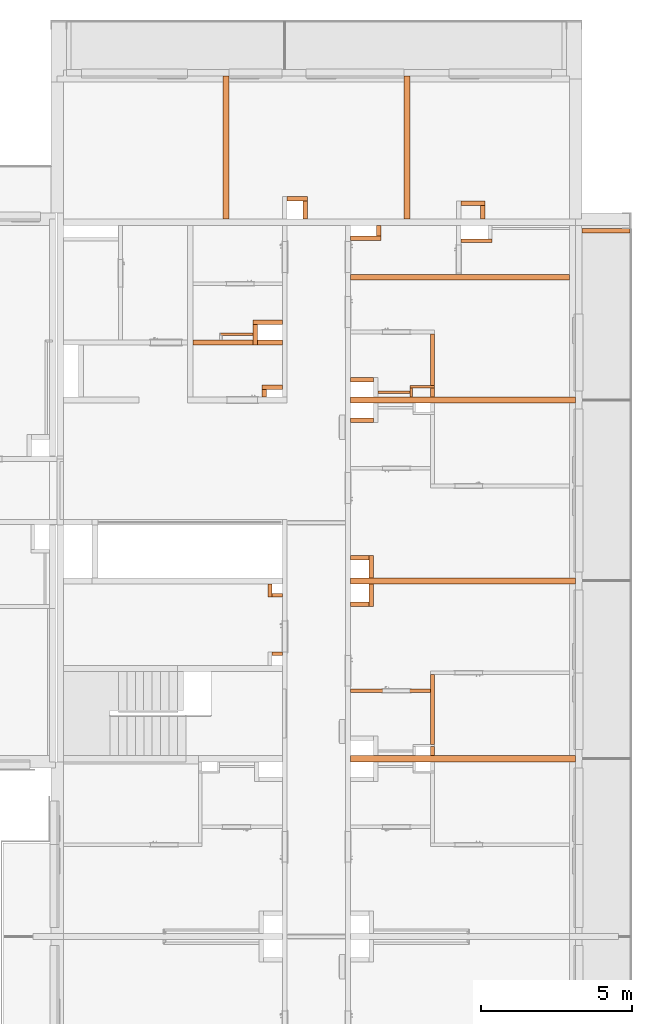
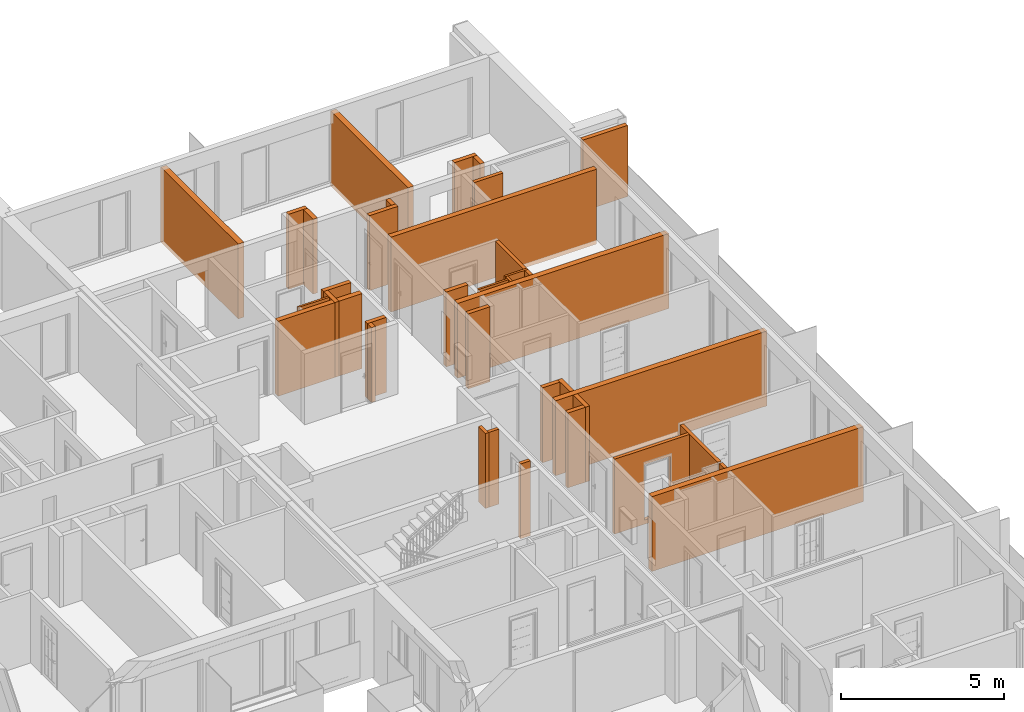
# One storey, part 66 of 67: 35 proxies, 1 opening.
"""IFC2X3 building model written with IfcOpenShell, lengths in millimetres."""

from ifc_helpers import new_model, entity, si_unit, converted_unit, derived_unit, money_unit, direction, frame, origin_with_axes, origin_2d_with_axis, place, context, subcontext, project, spatial, rectangle, extrude, faceted_brep, material, material_list, type_object, element, save


model = new_model("IFC2X3")

# Units and contexts
model_context = context("Model", 3, precision=0.01, world=origin_with_axes(), true_north=direction((0.34421633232, 0.938890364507)))
body_context = subcontext(model_context, "Body", "Model", "MODEL_VIEW")
ifc_project = project(units=[si_unit("LENGTHUNIT", "METRE", prefix="MILLI"), si_unit("AREAUNIT", "SQUARE_METRE"), si_unit("VOLUMEUNIT", "CUBIC_METRE"), converted_unit("PLANEANGLEUNIT", "DEGREE", entity("IfcPlaneAngleMeasure", 0.0174532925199), si_unit("PLANEANGLEUNIT", "RADIAN"), dimensions=[0, 0, 0, 0, 0, 0, 0]), si_unit("SOLIDANGLEUNIT", "STERADIAN"), money_unit("USD"), converted_unit("TIMEUNIT", "Year", entity("IfcTimeMeasure", 31556926.0), si_unit("TIMEUNIT", "SECOND"), dimensions=[0, 0, 1, 0, 0, 0, 0]), si_unit("MASSUNIT", "GRAM", prefix="KILO"), si_unit("THERMODYNAMICTEMPERATUREUNIT", "DEGREE_CELSIUS"), si_unit("LUMINOUSINTENSITYUNIT", "LUMEN"), si_unit("ENERGYUNIT", "JOULE", prefix="MEGA"), derived_unit("THERMALCONDUCTANCEUNIT", [(si_unit("POWERUNIT", "WATT"), 1), (si_unit("LENGTHUNIT", "METRE"), -1), (si_unit("THERMODYNAMICTEMPERATUREUNIT", "KELVIN"), -1)]), derived_unit("SPECIFICHEATCAPACITYUNIT", [(si_unit("ENERGYUNIT", "JOULE"), 1), (si_unit("MASSUNIT", "GRAM", prefix="KILO"), -1), (si_unit("THERMODYNAMICTEMPERATUREUNIT", "KELVIN"), -1)]), derived_unit("MASSDENSITYUNIT", [(si_unit("MASSUNIT", "GRAM", prefix="KILO"), 1), (si_unit("VOLUMEUNIT", "CUBIC_METRE"), -1)])], contexts=[model_context])

# Site, building, storey
site_placement = place(None, origin_with_axes())
site = spatial("IfcSite", under=ifc_project, at=site_placement, Name="USTRONIE MORSKIE", CompositionType="ELEMENT")
building_placement = place(site_placement, origin_with_axes())
building = spatial("IfcBuilding", under=site, at=building_placement, Name="Budynek", CompositionType="ELEMENT")
storey_placement = place(building_placement, frame((0.0, 0.0, 4000.0), z_axis=(0.0, 0.0, 1.0), x_axis=(1.0, 0.0, 0.0)))
storey = spatial("IfcBuildingStorey", under=building, at=storey_placement, Name="PIĘTRO 1", CompositionType="ELEMENT", Elevation=4000.0)

# Proxies
ifc_material_1 = material(Name="Bloczki silikatowe")
building_element_proxy_type_1 = type_object("IfcBuildingElementProxyType", Name="Bloczki silikatowe 120", PredefinedType="NOTDEFINED")
proxy_1_placement = place(storey_placement, frame((415587.920919, 732381.198997, -160.0), z_axis=(0.0, 0.0, 1.0), x_axis=(1.0, 0.0, 0.0)))
element("IfcBuildingElementProxy", 1, at=proxy_1_placement, inside=storey, type_object=building_element_proxy_type_1, material=ifc_material_1, Name="SW-04", context=body_context, shape_type="Brep", body=[
    faceted_brep([(350.0, -120.0, 2800.0), (350.0, 0.0, 2800.0), (0.0, 0.0, 2800.0), (0.0, -120.0, 2800.0), (350.0, -120.0, 0.0), (350.0, 0.0, 0.0), (0.0, 0.0, 0.0), (0.0, -120.0, 0.0)], [[[0, 1, 2, 3]], [[1, 0, 4, 5]], [[1, 5, 6, 2]], [[7, 3, 2, 6]], [[4, 0, 3, 7]], [[5, 4, 7, 6]]]),
])
proxy_2_placement = place(storey_placement, frame((420917.920919, 726901.199036, -160.0), z_axis=(0.0, 0.0, 1.0), x_axis=(0.0, 1.0, 0.0)))
element("IfcBuildingElementProxy", 2, at=proxy_2_placement, inside=storey, type_object=building_element_proxy_type_1, material=ifc_material_1, Name="SW-04", context=body_context, shape_type="Brep", body=[
    faceted_brep([(400.01915523, -60.0, 2800.0), (400.01915523, 60.0, 2800.0), (99.9999999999, 60.0, 2800.0), (99.9999999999, -60.0, 2800.0), (400.01915523, -60.0, 0.0), (400.01915523, 60.0, 0.0), (99.9999999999, 60.0, 0.0), (99.9999999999, -60.0, 0.0)], [[[0, 1, 2, 3]], [[1, 0, 4, 5]], [[1, 5, 6, 2]], [[7, 3, 2, 6]], [[4, 0, 3, 7]], [[5, 4, 7, 6]]]),
    faceted_brep([(2790.01935038, -60.0, 2800.0), (2790.01935038, 60.0, 2800.0), (480.01915523, 60.0, 2800.0), (480.01915523, -60.0, 2800.0), (2790.01935038, -60.0, 0.0), (2790.01935038, 60.0, 0.0), (480.01915523, 60.0, 0.0), (480.01915523, -60.0, 0.0)], [[[0, 1, 2, 3]], [[1, 0, 4, 5]], [[1, 5, 6, 2]], [[7, 3, 2, 6]], [[4, 0, 3, 7]], [[5, 4, 7, 6]]]),
])
proxy_3_placement = place(storey_placement, frame((420917.920919, 738801.202745, -180.0), z_axis=(0.0, 0.0, 1.0), x_axis=(0.0, 1.0, 0.0)))
element("IfcBuildingElementProxy", 3, at=proxy_3_placement, inside=storey, type_object=building_element_proxy_type_1, material=ifc_material_1, Name="SW-04", context=body_context, shape_type="Brep", body=[
    faceted_brep([(99.9959005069, -60.0, 2820.0), (99.9959005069, -60.0, 20.0), (399.996773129, -60.0, 20.0), (399.996773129, -60.0, 2820.0), (99.9959005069, 60.0, 2820.0), (99.9959005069, 60.0, 20.0), (399.996773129, 60.0, 20.0), (399.996773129, 60.0, 2820.0)], [[[0, 1, 2, 3]], [[4, 5, 1, 0]], [[5, 6, 2, 1]], [[3, 2, 6, 7]], [[4, 0, 3, 7]], [[7, 6, 5, 4]]]),
    faceted_brep([(479.996773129, -60.0, 2820.0), (479.996773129, -60.0, 20.0), (2200.00519406, -60.0, 20.0), (2200.00519406, -60.0, 2820.0), (479.996773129, 60.0, 2820.0), (479.996773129, 60.0, 20.0), (2200.00519406, 60.0, 20.0), (2200.00519406, 60.0, 2820.0)], [[[0, 1, 2, 3]], [[4, 5, 1, 0]], [[5, 6, 2, 1]], [[3, 2, 6, 7]], [[3, 7, 4, 0]], [[7, 6, 5, 4]]]),
])

# Proxy, opening
proxy_4_placement = place(storey_placement, frame((420917.920919, 729161.218596, -160.0), z_axis=(0.0, 0.0, 1.0), x_axis=(-1.0, 0.0, 0.0)))
proxy_4 = element("IfcBuildingElementProxy", 4, at=proxy_4_placement, inside=storey, type_object=building_element_proxy_type_1, material=ifc_material_1, Name="SW-04", context=body_context, shape_type="Brep", body=[
    faceted_brep([(2720.0, -59.9999999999, 2800.0), (2720.0, 59.9999999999, 2800.0), (60.0, 59.9999999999, 2800.0), (60.0, -59.9999999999, 2800.0), (2720.0, -59.9999999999, 0.0), (2720.0, 59.9999999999, 0.0), (60.0, 59.9999999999, 0.0), (60.0, -59.9999999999, 0.0)], [[[0, 1, 2, 3]], [[1, 0, 4, 5]], [[1, 5, 6, 2]], [[7, 3, 2, 6]], [[4, 0, 3, 7]], [[5, 4, 7, 6]]]),
])
opening_placement = place(proxy_4_placement, frame((1200.0, 0.0, 160.0), z_axis=(0.0, 0.0, 1.0), x_axis=(1.0, 0.0, 0.0)))
element("IfcOpeningElement", 5, at=opening_placement, cuts=proxy_4, Name="Dw.4", context=body_context, shape_type="SweptSolid", body=[
    extrude(rectangle(XDim=920.0, YDim=2070.0, at=origin_2d_with_axis()), frame((0.0, 120.0, 1035.0), z_axis=(0.0, -1.0, 0.0), x_axis=(-1.0, 0.0, 0.0)), (0.0, 0.0, 1.0), 360.0),
    extrude(rectangle(XDim=994.0, YDim=2177.0, at=origin_2d_with_axis()), frame((0.0, 60.0000000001, 1088.5), z_axis=(0.0, -1.0, 0.0), x_axis=(-1.0, 0.0, 0.0)), (0.0, 0.0, -1.0), 120.0),
    extrude(rectangle(XDim=994.0, YDim=2177.0, at=origin_2d_with_axis()), frame((0.0, -59.9999999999, 1088.5), z_axis=(0.0, 1.0, 0.0), x_axis=(-1.0, 0.0, 0.0)), (0.0, 0.0, -1.0), 120.0),
])

# Proxies
proxy_5_placement = place(storey_placement, frame((421792.920919, 744091.199036, -160.0), z_axis=(0.0, 0.0, 1.0), x_axis=(1.0, 0.0, 0.0)))
element("IfcBuildingElementProxy", 6, at=proxy_5_placement, inside=storey, type_object=building_element_proxy_type_1, material=ifc_material_1, Name="SW-04", context=body_context, shape_type="Brep", body=[
    faceted_brep([(1095.0, -59.9999999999, 2800.0), (1095.0, 59.9999999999, 2800.0), (75.0, 59.9999999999, 2800.0), (75.0, -59.9999999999, 2800.0), (1095.0, -59.9999999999, 0.0), (1095.0, 59.9999999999, 0.0), (75.0, 59.9999999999, 0.0), (75.0, -59.9999999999, 0.0)], [[[0, 1, 2, 3]], [[1, 0, 4, 5]], [[1, 5, 6, 2]], [[7, 3, 2, 6]], [[4, 0, 3, 7]], [[5, 4, 7, 6]]]),
])
proxy_6_placement = place(storey_placement, frame((415587.920919, 732801.199169, -160.0), z_axis=(0.0, 0.0, 1.0), x_axis=(0.0, -1.0, 0.0)))
element("IfcBuildingElementProxy", 7, at=proxy_6_placement, inside=storey, type_object=building_element_proxy_type_1, material=ifc_material_1, Name="SW-04", context=body_context, shape_type="Brep", body=[
    faceted_brep([(540.000171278, -120.0, 2800.0), (540.000171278, 0.0, 2800.0), (100.000132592, 0.0, 2800.0), (100.000132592, -120.0, 2800.0), (540.000171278, -120.0, 0.0), (540.000171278, 0.0, 0.0), (100.000132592, 0.0, 0.0), (100.000132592, -120.0, 0.0)], [[[0, 1, 2, 3]], [[1, 0, 4, 5]], [[1, 5, 6, 2]], [[7, 3, 2, 6]], [[4, 0, 3, 7]], [[5, 4, 7, 6]]]),
])
proxy_7_placement = place(storey_placement, frame((415587.920919, 730321.199036, -160.0), z_axis=(0.0, 0.0, 1.0), x_axis=(1.0, 0.0, 0.0)))
element("IfcBuildingElementProxy", 8, at=proxy_7_placement, inside=storey, type_object=building_element_proxy_type_1, material=ifc_material_1, Name="SW-04", context=body_context, shape_type="Brep", body=[
    faceted_brep([(350.0, 120.0, 0.0), (350.0, 0.0, 0.0), (0.0, 0.0, 0.0), (0.0, 120.0, 0.0), (350.0, 120.0, 2800.0), (350.0, 0.0, 2800.0), (0.0, 0.0, 2800.0), (0.0, 120.0, 2800.0)], [[[0, 1, 2, 3]], [[1, 0, 4, 5]], [[1, 5, 6, 2]], [[7, 3, 2, 6]], [[4, 0, 3, 7]], [[5, 4, 7, 6]]]),
])
building_element_proxy_type_2 = type_object("IfcBuildingElementProxyType", Name="Bloczki silikatowe 180", PredefinedType="NOTDEFINED")
proxy_8_placement = place(storey_placement, frame((418117.920919, 742871.199128, -160.0), z_axis=(0.0, 0.0, 1.0), x_axis=(1.0, 0.0, 0.0)))
element("IfcBuildingElementProxy", 9, at=proxy_8_placement, inside=storey, type_object=building_element_proxy_type_2, material=ifc_material_1, Name="SW-02", context=body_context, shape_type="Brep", body=[
    faceted_brep([(7350.0, -90.0, 2800.0), (7350.0, 90.0, 2800.0), (80.0, 90.0, 2800.0), (80.0, -90.0, 2800.0), (7350.0, -90.0, 0.0), (7350.0, 90.0, 0.0), (80.0, 90.0, 0.0), (80.0, -90.0, 0.0)], [[[0, 1, 2, 3]], [[1, 0, 4, 5]], [[1, 5, 6, 2]], [[7, 3, 2, 6]], [[4, 0, 3, 7]], [[5, 4, 7, 6]]]),
])
proxy_9_placement = place(storey_placement, frame((412877.920964, 740711.179476, -160.0), z_axis=(0.0, 0.0, 1.0), x_axis=(1.0, 0.0, 0.0)))
element("IfcBuildingElementProxy", 10, at=proxy_9_placement, inside=storey, type_object=building_element_proxy_type_2, material=ifc_material_1, Name="SW-02", context=body_context, shape_type="Brep", body=[
    faceted_brep([(2089.99816017, 90.0, 0.0), (2089.99816017, -90.0, 0.0), (89.9999991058, -90.0, 0.0), (89.9999991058, 90.0, 0.0), (2089.99816017, 90.0, 2800.0), (2089.99816017, -90.0, 2800.0), (89.9999991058, -90.0, 2800.0), (89.9999991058, 90.0, 2800.0)], [[[0, 1, 2, 3]], [[1, 0, 4, 5]], [[1, 5, 6, 2]], [[7, 3, 2, 6]], [[4, 0, 3, 7]], [[5, 4, 7, 6]]]),
    faceted_brep([(3059.99995392, 90.0, 0.0), (3059.99995392, -90.0, 0.0), (2239.99816017, -90.0, 0.0), (2239.99816017, 90.0, 0.0), (3059.99995392, 90.0, 2800.0), (3059.99995392, -90.0, 2800.0), (2239.99816017, -90.0, 2800.0), (2239.99816017, 90.0, 2800.0)], [[[0, 1, 2, 3]], [[1, 0, 4, 5]], [[1, 5, 6, 2]], [[7, 3, 2, 6]], [[4, 0, 3, 7]], [[5, 4, 7, 6]]]),
])
ifc_material_2 = material(Name="-Pustka powietrzna")
ifc_material_3 = material(Name="Płyta GK")
ifc_material_list = material_list([ifc_material_2, ifc_material_3, ifc_material_3])
building_element_proxy_type_3 = type_object("IfcBuildingElementProxyType", Name="330-SD GK 2-warstwy 75", PredefinedType="NOTDEFINED")
proxy_10_placement = place(storey_placement, frame((420217.920919, 739071.20032, -180.0), z_axis=(0.0, 0.0, 1.0), x_axis=(-1.0, 0.0, 0.0)))
element("IfcBuildingElementProxy", 11, at=proxy_10_placement, inside=storey, type_object=building_element_proxy_type_3, material=ifc_material_list, Name="Ściana-009", context=body_context, shape_type="Brep", body=[
    faceted_brep([(40.0, 50.0, 180.0), (40.0, 0.0, 180.0), (40.0, 0.0, 2820.0), (40.0, 50.0, 2820.0), (1099.99909883, 0.0, 180.0), (1099.99909883, 50.0, 180.0), (1099.99909883, 0.0, 2820.0), (1099.99909883, 50.0, 2820.0)], [[[0, 1, 2, 3]], [[4, 1, 0, 5]], [[1, 4, 6, 2]], [[7, 3, 2, 6]], [[5, 0, 3, 7]], [[4, 5, 7, 6]]]),
    faceted_brep([(40.0, 0.0, 165.0), (40.0, -12.5, 165.0), (40.0, -12.5, 2820.0), (40.0, 0.0, 2820.0), (1099.99909883, -12.5, 165.0), (1099.99909883, 0.0, 165.0), (1099.99909883, -12.5, 2820.0), (1099.99909883, 0.0, 2820.0)], [[[0, 1, 2, 3]], [[4, 1, 0, 5]], [[1, 4, 6, 2]], [[7, 3, 2, 6]], [[5, 0, 3, 7]], [[4, 5, 7, 6]]]),
    faceted_brep([(40.0, -12.5, 165.0), (40.0, -25.0, 165.0), (40.0, -25.0, 2820.0), (40.0, -12.5, 2820.0), (1099.99909883, -25.0, 165.0), (1099.99909883, -12.5, 165.0), (1099.99909883, -25.0, 2820.0), (1099.99909883, -12.5, 2820.0)], [[[0, 1, 2, 3]], [[4, 1, 0, 5]], [[1, 4, 6, 2]], [[7, 3, 2, 6]], [[5, 0, 3, 7]], [[4, 5, 7, 6]]]),
])
proxy_11_placement = place(storey_placement, frame((415042.919124, 741001.179476, -180.0), z_axis=(0.0, 0.0, 1.0), x_axis=(-1.0, 0.0, 0.0)))
element("IfcBuildingElementProxy", 12, at=proxy_11_placement, inside=storey, type_object=building_element_proxy_type_3, material=ifc_material_list, Name="Ściana-009", context=body_context, shape_type="Brep", body=[
    faceted_brep([(75.0, 50.0, 180.0), (75.0, 0.0, 180.0), (75.0, 0.0, 2820.0), (75.0, 50.0, 2820.0), (1150.0, 0.0, 180.0), (1150.0, 50.0, 180.0), (1150.0, 0.0, 2820.0), (1150.0, 50.0, 2820.0)], [[[0, 1, 2, 3]], [[4, 1, 0, 5]], [[1, 4, 6, 2]], [[7, 3, 2, 6]], [[5, 0, 3, 7]], [[4, 5, 7, 6]]]),
    faceted_brep([(75.0, 0.0, 165.0), (75.0, -12.5, 165.0), (75.0, -12.5, 2820.0), (75.0, 0.0, 2820.0), (1162.5, -12.5, 165.0), (1162.5, 0.0, 165.0), (1162.5, -12.5, 2820.0), (1162.5, 0.0, 2820.0)], [[[0, 1, 2, 3]], [[4, 1, 0, 5]], [[1, 4, 6, 2]], [[7, 3, 2, 6]], [[5, 0, 3, 7]], [[4, 5, 7, 6]]]),
    faceted_brep([(75.0, -12.5, 165.0), (75.0, -25.0, 165.0), (75.0, -25.0, 2820.0), (75.0, -12.5, 2820.0), (1175.0, -25.0, 165.0), (1175.0, -12.5, 165.0), (1175.0, -25.0, 2820.0), (1175.0, -12.5, 2820.0)], [[[0, 1, 2, 3]], [[4, 1, 0, 5]], [[1, 4, 6, 2]], [[7, 3, 2, 6]], [[5, 0, 3, 7]], [[4, 5, 7, 6]]]),
])
building_element_proxy_type_4 = type_object("IfcBuildingElementProxyType", Name="Bloczki silikatowe 80", PredefinedType="NOTDEFINED")
proxy_12_placement = place(storey_placement, frame((420217.920919, 738801.19863, -160.0), z_axis=(0.0, 0.0, 1.0), x_axis=(0.0, 1.0, 0.0)))
element("IfcBuildingElementProxy", 13, at=proxy_12_placement, inside=storey, type_object=building_element_proxy_type_4, material=ifc_material_1, Name="Ściana-010", context=body_context, shape_type="Brep", body=[
    faceted_brep([(400.000888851, -40.0, 2800.0), (400.000888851, 40.0, 2800.0), (100.000001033, 40.0, 2800.0), (100.000000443, -40.0, 2800.0), (400.000888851, -40.0, 0.0), (400.000888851, 40.0, 0.0), (100.000001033, 40.0, 0.0), (100.000000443, -40.0, 0.0)], [[[0, 1, 2, 3]], [[1, 0, 4, 5]], [[1, 5, 6, 2]], [[7, 3, 2, 6]], [[4, 0, 3, 7]], [[5, 4, 7, 6]]]),
])
proxy_13_placement = place(storey_placement, frame((420917.920919, 739241.199519, -160.0), z_axis=(0.0, 0.0, 1.0), x_axis=(-1.0, 0.0, 0.0)))
element("IfcBuildingElementProxy", 14, at=proxy_13_placement, inside=storey, type_object=building_element_proxy_type_4, material=ifc_material_1, Name="Ściana-009", context=body_context, shape_type="Brep", body=[
    faceted_brep([(740.0, -40.0, 2800.0), (740.0, 40.0, 2800.0), (-60.0, 40.0, 2800.0), (-60.0, -40.0, 2800.0), (740.0, -40.0, 0.0), (740.0, 40.0, 0.0), (-60.0, 40.0, 0.0), (-60.0, -40.0, 0.0)], [[[0, 1, 2, 3]], [[1, 0, 4, 5]], [[1, 5, 6, 2]], [[7, 3, 2, 6]], [[4, 0, 3, 7]], [[5, 4, 7, 6]]]),
])
building_element_proxy_type_5 = type_object("IfcBuildingElementProxyType", Name="Bloczki silikatowe 150", PredefinedType="NOTDEFINED")
proxy_14_placement = place(storey_placement, frame((418817.920919, 732101.199036, -160.0), z_axis=(0.0, 0.0, 1.0), x_axis=(-1.0, 0.0, 0.0)))
element("IfcBuildingElementProxy", 15, at=proxy_14_placement, inside=storey, type_object=building_element_proxy_type_5, material=ifc_material_1, Name="SW-03", context=body_context, shape_type="Brep", body=[
    faceted_brep([(620.0, 150.0, 0.0), (620.0, 0.0, 0.0), (0.0, 0.0, 0.0), (0.0, 150.0, 0.0), (620.0, 150.0, 2800.0), (620.0, 0.0, 2800.0), (0.0, 0.0, 2800.0), (0.0, 150.0, 2800.0)], [[[0, 1, 2, 3]], [[1, 0, 4, 5]], [[1, 5, 6, 2]], [[7, 3, 2, 6]], [[4, 0, 3, 7]], [[5, 4, 7, 6]]]),
])
proxy_15_placement = place(storey_placement, frame((418117.920919, 744176.199036, -160.0), z_axis=(0.0, 0.0, 1.0), x_axis=(1.0, 0.0, 0.0)))
element("IfcBuildingElementProxy", 16, at=proxy_15_placement, inside=storey, type_object=building_element_proxy_type_5, material=ifc_material_1, Name="SW-03", context=body_context, shape_type="Brep", body=[
    faceted_brep([(1100.00090117, -75.0, 2800.0), (1100.00090117, 75.0, 2800.0), (80.0, 75.0, 2800.0), (80.0, -75.0, 2800.0), (1100.00090117, -75.0, 0.0), (1100.00090117, 75.0, 0.0), (80.0, 75.0, 0.0), (80.0, -75.0, 0.0)], [[[0, 1, 2, 3]], [[1, 0, 4, 5]], [[1, 5, 6, 2]], [[7, 3, 2, 6]], [[4, 0, 3, 7]], [[5, 4, 7, 6]]]),
])
proxy_16_placement = place(storey_placement, frame((415042.919124, 740711.179476, -160.0), z_axis=(0.0, 0.0, 1.0), x_axis=(0.0, 1.0, 0.0)))
element("IfcBuildingElementProxy", 17, at=proxy_16_placement, inside=storey, type_object=building_element_proxy_type_5, material=ifc_material_1, Name="SW-04", context=body_context, shape_type="Brep", body=[
    faceted_brep([(590.00090117, 75.0, 0.0), (590.00090117, -75.0, 0.0), (-90.0, -75.0, 0.0), (-90.0, 75.0, 0.0), (590.00090117, 75.0, 2800.0), (590.00090117, -75.0, 2800.0), (-90.0, -75.0, 2800.0), (-90.0, 75.0, 2800.0)], [[[0, 1, 2, 3]], [[1, 0, 4, 5]], [[1, 5, 6, 2]], [[7, 3, 2, 6]], [[4, 0, 3, 7]], [[5, 4, 7, 6]]]),
])
proxy_17_placement = place(storey_placement, frame((419142.92182, 744176.199036, -160.0), z_axis=(0.0, 0.0, 1.0), x_axis=(0.0, 1.0, 0.0)))
element("IfcBuildingElementProxy", 18, at=proxy_17_placement, inside=storey, type_object=building_element_proxy_type_5, material=ifc_material_1, Name="SW-03", context=body_context, shape_type="Brep", body=[
    faceted_brep([(425.0, -75.0, 2800.0), (425.0, 75.0, 2800.0), (75.0, 75.0, 2800.0), (75.0, -75.0, 2800.0), (425.0, -75.0, 0.0), (425.0, 75.0, 0.0), (75.0, 75.0, 0.0), (75.0, -75.0, 0.0)], [[[0, 1, 2, 3]], [[1, 0, 4, 5]], [[1, 5, 6, 2]], [[7, 3, 2, 6]], [[4, 0, 3, 7]], [[5, 4, 7, 6]]]),
])
proxy_18_placement = place(storey_placement, frame((418817.920919, 732801.198998, -160.0), z_axis=(0.0, 0.0, 1.0), x_axis=(0.0, 1.0, 0.0)))
element("IfcBuildingElementProxy", 19, at=proxy_18_placement, inside=storey, type_object=building_element_proxy_type_5, material=ifc_material_1, Name="SW-03", context=body_context, shape_type="Brep", body=[
    faceted_brep([(850.000037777, -150.0, 2800.0), (850.000037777, 0.0, 2800.0), (100.000037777, 0.0, 2800.0), (100.000037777, -150.0, 2800.0), (850.000037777, -150.0, 0.0), (850.000037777, 0.0, 0.0), (100.000037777, 0.0, 0.0), (100.000037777, -150.0, 0.0)], [[[0, 1, 2, 3]], [[1, 0, 4, 5]], [[1, 5, 6, 2]], [[7, 3, 2, 6]], [[4, 0, 3, 7]], [[5, 4, 7, 6]]]),
])
proxy_19_placement = place(storey_placement, frame((415042.919124, 741376.180377, -160.0), z_axis=(0.0, 0.0, 1.0), x_axis=(1.0, 0.0, 0.0)))
element("IfcBuildingElementProxy", 20, at=proxy_19_placement, inside=storey, type_object=building_element_proxy_type_5, material=ifc_material_1, Name="SW-04", context=body_context, shape_type="Brep", body=[
    faceted_brep([(895.001793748, 75.0, 0.0), (895.001793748, -75.0, 0.0), (-75.0, -75.0, 0.0), (-75.0, 75.0, 0.0), (895.001793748, 75.0, 2800.0), (895.001793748, -75.0, 2800.0), (-75.0, -75.0, 2800.0), (-75.0, 75.0, 2800.0)], [[[0, 1, 2, 3]], [[1, 0, 4, 5]], [[1, 5, 6, 2]], [[7, 3, 2, 6]], [[4, 0, 3, 7]], [[5, 4, 7, 6]]]),
])
proxy_20_placement = place(storey_placement, frame((416677.920089, 745461.199937, -160.0), z_axis=(0.0, 0.0, 1.0), x_axis=(0.0, -1.0, 0.0)))
element("IfcBuildingElementProxy", 21, at=proxy_20_placement, inside=storey, type_object=building_element_proxy_type_5, material=ifc_material_1, Name="SW-03", context=body_context, shape_type="Brep", body=[
    faceted_brep([(660.00090117, 90.0, 0.0), (660.00090117, -60.0, 0.0), (59.9999999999, -60.0, 0.0), (59.9999999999, 90.0, 0.0), (660.00090117, 90.0, 2800.0), (660.00090117, -60.0, 2800.0), (59.9999999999, -60.0, 2800.0), (59.9999999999, 90.0, 2800.0)], [[[0, 1, 2, 3]], [[1, 0, 4, 5]], [[1, 5, 6, 2]], [[7, 3, 2, 6]], [[4, 0, 3, 7]], [[5, 4, 7, 6]]]),
])
proxy_21_placement = place(storey_placement, frame((418817.920919, 732801.199074, -160.0), z_axis=(0.0, 0.0, 1.0), x_axis=(0.0, -1.0, 0.0)))
element("IfcBuildingElementProxy", 22, at=proxy_21_placement, inside=storey, type_object=building_element_proxy_type_5, material=ifc_material_1, Name="SW-03", context=body_context, shape_type="Brep", body=[
    faceted_brep([(850.000037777, 150.0, 0.0), (100.000037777, 150.0, 0.0), (100.000037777, 150.0, 2800.0), (850.000037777, 150.0, 2800.0), (850.000037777, 0.0, 0.0), (100.000037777, 0.0, 0.0), (100.000037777, 0.0, 2800.0), (850.000037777, 0.0, 2800.0)], [[[0, 1, 2, 3]], [[4, 5, 1, 0]], [[5, 6, 2, 1]], [[3, 2, 6, 7]], [[3, 7, 4, 0]], [[7, 6, 5, 4]]]),
])
proxy_22_placement = place(storey_placement, frame((416017.920918, 745461.199937, -160.0), z_axis=(0.0, 0.0, 1.0), x_axis=(1.0, 0.0, 0.0)))
element("IfcBuildingElementProxy", 23, at=proxy_22_placement, inside=storey, type_object=building_element_proxy_type_5, material=ifc_material_1, Name="SW-03", context=body_context, shape_type="Brep", body=[
    faceted_brep([(749.999171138, 90.0, 0.0), (749.999171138, -59.9999999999, 0.0), (80.0, -59.9999999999, 0.0), (80.0, 90.0, 0.0), (749.999171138, 90.0, 2800.0), (749.999171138, -59.9999999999, 2800.0), (80.0, -59.9999999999, 2800.0), (80.0, 90.0, 2800.0)], [[[0, 1, 2, 3]], [[1, 0, 4, 5]], [[1, 5, 6, 2]], [[7, 3, 2, 6]], [[4, 0, 3, 7]], [[5, 4, 7, 6]]]),
])
proxy_23_placement = place(storey_placement, frame((415342.919124, 738801.199036, -160.0), z_axis=(0.0, 0.0, 1.0), x_axis=(0.0, 1.0, 0.0)))
element("IfcBuildingElementProxy", 24, at=proxy_23_placement, inside=storey, type_object=building_element_proxy_type_5, material=ifc_material_1, Name="SW-04", context=body_context, shape_type="Brep", body=[
    faceted_brep([(350.0, 75.0, 0.0), (350.0, -75.0, 0.0), (100.0, -75.0, 0.0), (100.0, 75.0, 0.0), (350.0, 75.0, 2800.0), (350.0, -75.0, 2800.0), (100.0, -75.0, 2800.0), (100.0, 75.0, 2800.0)], [[[0, 1, 2, 3]], [[1, 0, 4, 5]], [[1, 5, 6, 2]], [[7, 3, 2, 6]], [[4, 0, 3, 7]], [[5, 4, 7, 6]]]),
])
proxy_24_placement = place(storey_placement, frame((418817.920919, 733501.199036, -160.0), z_axis=(0.0, 0.0, 1.0), x_axis=(-1.0, 0.0, 0.0)))
element("IfcBuildingElementProxy", 25, at=proxy_24_placement, inside=storey, type_object=building_element_proxy_type_5, material=ifc_material_1, Name="SW-03", context=body_context, shape_type="Brep", body=[
    faceted_brep([(620.0, -150.0, 2800.0), (620.0, 0.0, 2800.0), (0.0, 0.0, 2800.0), (0.0, -150.0, 2800.0), (620.0, -150.0, 0.0), (620.0, 0.0, 0.0), (0.0, 0.0, 0.0), (0.0, -150.0, 0.0)], [[[0, 1, 2, 3]], [[1, 0, 4, 5]], [[1, 5, 6, 2]], [[7, 3, 2, 6]], [[4, 0, 3, 7]], [[5, 4, 7, 6]]]),
])
proxy_25_placement = place(storey_placement, frame((419042.92182, 739476.199519, -160.0), z_axis=(0.0, 0.0, 1.0), x_axis=(-1.0, 0.0, 0.0)))
element("IfcBuildingElementProxy", 26, at=proxy_25_placement, inside=storey, type_object=building_element_proxy_type_5, material=ifc_material_1, Name="Ściana-009", context=body_context, shape_type="Brep", body=[
    faceted_brep([(845.00090117, -75.0, 2800.0), (845.00090117, 75.0, 2800.0), (75.0, 75.0, 2800.0), (75.0, -75.0, 2800.0), (845.00090117, -75.0, 0.0), (845.00090117, 75.0, 0.0), (75.0, 75.0, 0.0), (75.0, -75.0, 0.0)], [[[0, 1, 2, 3]], [[1, 0, 4, 5]], [[1, 5, 6, 2]], [[7, 3, 2, 6]], [[4, 0, 3, 7]], [[5, 4, 7, 6]]]),
])
proxy_26_placement = place(storey_placement, frame((419042.92182, 738126.197761, -160.0), z_axis=(0.0, 0.0, 1.0), x_axis=(-1.0, 0.0, 0.0)))
element("IfcBuildingElementProxy", 27, at=proxy_26_placement, inside=storey, type_object=building_element_proxy_type_5, material=ifc_material_1, Name="Ściana-009", context=body_context, shape_type="Brep", body=[
    faceted_brep([(845.00090117, 75.0, 0.0), (845.00090117, -75.0, 0.0), (75.0, -75.0, 0.0), (75.0, 75.0, 0.0), (845.00090117, 75.0, 2800.0), (845.00090117, -75.0, 2800.0), (75.0, -75.0, 2800.0), (75.0, 75.0, 2800.0)], [[[0, 1, 2, 3]], [[1, 0, 4, 5]], [[1, 5, 6, 2]], [[7, 3, 2, 6]], [[4, 0, 3, 7]], [[5, 4, 7, 6]]]),
])
proxy_27_placement = place(storey_placement, frame((415342.919124, 739226.199036, -160.0), z_axis=(0.0, 0.0, 1.0), x_axis=(1.0, 0.0, 0.0)))
element("IfcBuildingElementProxy", 28, at=proxy_27_placement, inside=storey, type_object=building_element_proxy_type_5, material=ifc_material_1, Name="SW-04", context=body_context, shape_type="Brep", body=[
    faceted_brep([(595.001793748, 75.0, 0.0), (595.001793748, -75.0, 0.0), (-75.0, -75.0, 0.0), (-75.0, 75.0, 0.0), (595.001793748, 75.0, 2800.0), (595.001793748, -75.0, 2800.0), (-75.0, -75.0, 2800.0), (-75.0, 75.0, 2800.0)], [[[0, 1, 2, 3]], [[1, 0, 4, 5]], [[1, 5, 6, 2]], [[7, 3, 2, 6]], [[4, 0, 3, 7]], [[5, 4, 7, 6]]]),
])
proxy_28_placement = place(storey_placement, frame((422592.920919, 745326.199036, -160.0), z_axis=(0.0, 0.0, 1.0), x_axis=(-1.0, 0.0, 0.0)))
element("IfcBuildingElementProxy", 29, at=proxy_28_placement, inside=storey, type_object=building_element_proxy_type_5, material=ifc_material_1, Name="Œciana-007", context=body_context, shape_type="Brep", body=[
    faceted_brep([(725.0, 75.0, 0.0), (725.0, -75.0, 0.0), (-75.0, -75.0, 0.0), (-75.0, 75.0, 0.0), (725.0, 75.0, 2800.0), (725.0, -75.0, 2800.0), (-75.0, -75.0, 2800.0), (-75.0, 75.0, 2800.0)], [[[0, 1, 2, 3]], [[1, 0, 4, 5]], [[1, 5, 6, 2]], [[7, 3, 2, 6]], [[4, 0, 3, 7]], [[5, 4, 7, 6]]]),
])
proxy_29_placement = place(storey_placement, frame((422592.920919, 745326.199036, -160.0), z_axis=(0.0, 0.0, 1.0), x_axis=(0.0, -1.0, 0.0)))
element("IfcBuildingElementProxy", 30, at=proxy_29_placement, inside=storey, type_object=building_element_proxy_type_5, material=ifc_material_1, Name="Œciana-007", context=body_context, shape_type="Brep", body=[
    faceted_brep([(525.0, 75.0, 0.0), (525.0, -75.0, 0.0), (75.0, -75.0, 0.0), (75.0, 75.0, 0.0), (525.0, 75.0, 2800.0), (525.0, -75.0, 2800.0), (75.0, -75.0, 2800.0), (75.0, 75.0, 2800.0)], [[[0, 1, 2, 3]], [[1, 0, 4, 5]], [[1, 5, 6, 2]], [[7, 3, 2, 6]], [[4, 0, 3, 7]], [[5, 4, 7, 6]]]),
])
ifc_material_4 = material(Name="Beton konstrukcyjny B25")
building_element_proxy_type_6 = type_object("IfcBuildingElementProxyType", Name="Beton konstrukcyjny B25 200", PredefinedType="NOTDEFINED")
proxy_30_placement = place(storey_placement, frame((425567.920919, 732801.199036, -160.0), z_axis=(0.0, 0.0, 1.0), x_axis=(-1.0, 0.0, 0.0)))
element("IfcBuildingElementProxy", 31, at=proxy_30_placement, inside=storey, type_object=building_element_proxy_type_6, material=ifc_material_4, Name="SW-01", context=body_context, shape_type="Brep", body=[
    faceted_brep([(-100.0, 100.0, 0.0), (7370.0, 100.0, 0.0), (7370.0, -100.0, 0.0), (-100.0, -100.0, 0.0), (-100.0, 100.0, 2800.0), (7370.0, 100.0, 2800.0), (7370.0, -100.0, 2800.0), (-100.0, -100.0, 2800.0)], [[[0, 1, 2, 3]], [[4, 5, 1, 0]], [[6, 2, 1, 5]], [[3, 2, 6, 7]], [[7, 4, 0, 3]], [[7, 6, 5, 4]]]),
])
proxy_31_placement = place(storey_placement, frame((420067.920919, 744701.199036, -160.0), z_axis=(0.0, 0.0, 1.0), x_axis=(0.0, 1.0, 0.0)))
element("IfcBuildingElementProxy", 32, at=proxy_31_placement, inside=storey, type_object=building_element_proxy_type_6, material=ifc_material_4, Name="SW-01", context=body_context, shape_type="Brep", body=[
    faceted_brep([(4849.99022893, -100.0, 2800.0), (4849.9903974, 100.0, 2800.0), (100.0, 100.0, 2800.0), (100.0, -100.0, 2800.0), (4849.99022893, -100.0, 0.0), (4849.9903974, 100.0, 0.0), (100.0, 100.0, 0.0), (100.0, -100.0, 0.0)], [[[0, 1, 2, 3]], [[1, 0, 4, 5]], [[1, 5, 6, 2]], [[7, 3, 2, 6]], [[4, 0, 3, 7]], [[5, 4, 7, 6]]]),
])
proxy_32_placement = place(storey_placement, frame((425567.920919, 726901.199036, -160.0), z_axis=(0.0, 0.0, 1.0), x_axis=(-1.0, 0.0, 0.0)))
element("IfcBuildingElementProxy", 33, at=proxy_32_placement, inside=storey, type_object=building_element_proxy_type_6, material=ifc_material_4, Name="SW-01", context=body_context, shape_type="Brep", body=[
    faceted_brep([(-100.0, 100.0, 0.0), (7370.0, 100.0, 0.0), (7370.0, -100.0, 0.0), (-100.0, -100.0, 0.0), (-100.0, 100.0, 2800.0), (7370.0, 100.0, 2800.0), (7370.0, -100.0, 2800.0), (-100.0, -100.0, 2800.0)], [[[0, 1, 2, 3]], [[4, 5, 1, 0]], [[6, 2, 1, 5]], [[3, 2, 6, 7]], [[7, 4, 0, 3]], [[7, 6, 5, 4]]]),
])
proxy_33_placement = place(storey_placement, frame((418117.920919, 738801.198646, -160.0), z_axis=(0.0, 0.0, 1.0), x_axis=(1.0, -7.37678029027e-09, 0.0)))
element("IfcBuildingElementProxy", 34, at=proxy_33_placement, inside=storey, type_object=building_element_proxy_type_6, material=ifc_material_4, Name="SW-01", context=body_context, shape_type="Brep", body=[
    faceted_brep([(80.0000007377, -99.9999994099, 2800.0), (7550.00000074, -99.9999443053, 2800.0), (7549.99999926, 100.000055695, 2800.0), (79.9999992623, 100.00000059, 2800.0), (80.0000007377, -99.9999994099, 0.0), (7550.00000074, -99.9999443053, 0.0), (7549.99999926, 100.000055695, 0.0), (79.9999992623, 100.00000059, 0.0)], [[[0, 1, 2, 3]], [[4, 5, 1, 0]], [[6, 2, 1, 5]], [[3, 2, 6, 7]], [[7, 4, 0, 3]], [[7, 6, 5, 4]]]),
])
proxy_34_placement = place(storey_placement, frame((414067.920919, 744701.199036, -160.0), z_axis=(0.0, 0.0, 1.0), x_axis=(0.0, 1.0, 0.0)))
element("IfcBuildingElementProxy", 35, at=proxy_34_placement, inside=storey, type_object=building_element_proxy_type_6, material=ifc_material_4, Name="SW-01", context=body_context, shape_type="Brep", body=[
    faceted_brep([(4849.99528293, -100.0, 2800.0), (4849.9954514, 100.0, 2800.0), (100.0, 100.0, 2800.0), (100.0, -100.0, 2800.0), (4849.99528293, -100.0, 0.0), (4849.9954514, 100.0, 0.0), (100.0, 100.0, 0.0), (100.0, -100.0, 0.0)], [[[0, 1, 2, 3]], [[1, 0, 4, 5]], [[1, 5, 6, 2]], [[7, 3, 2, 6]], [[4, 0, 3, 7]], [[5, 4, 7, 6]]]),
])
ifc_material_5 = material(Name="Laminat")
building_element_proxy_type_7 = type_object("IfcBuildingElementProxyType", Name="Laminat 150", PredefinedType="NOTDEFINED")
proxy_35_placement = place(storey_placement, frame((425877.921003, 744416.199036, -30.000001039), z_axis=(0.0, 0.0, 1.0), x_axis=(1.0, 0.0, 0.0)))
element("IfcBuildingElementProxy", 36, at=proxy_35_placement, inside=storey, type_object=building_element_proxy_type_7, material=ifc_material_5, context=body_context, shape_type="Brep", body=[
    faceted_brep([(1589.999902, -75.0, 2659.99999287), (0.0, -75.0, 2659.99999287), (0.0, -75.0, 0.0), (1589.999902, -75.0, 0.0), (0.0, 75.0, 2659.99999287), (1589.999902, 75.0, 2659.99999287), (0.0, 75.0, 0.0), (1589.999902, 75.0, 0.0)], [[[0, 1, 2, 3]], [[4, 1, 0, 5]], [[4, 6, 2, 1]], [[3, 2, 6, 7]], [[0, 3, 7, 5]], [[5, 7, 6, 4]]]),
])

save(model, "model.ifc")
